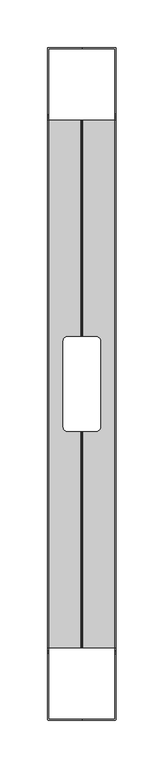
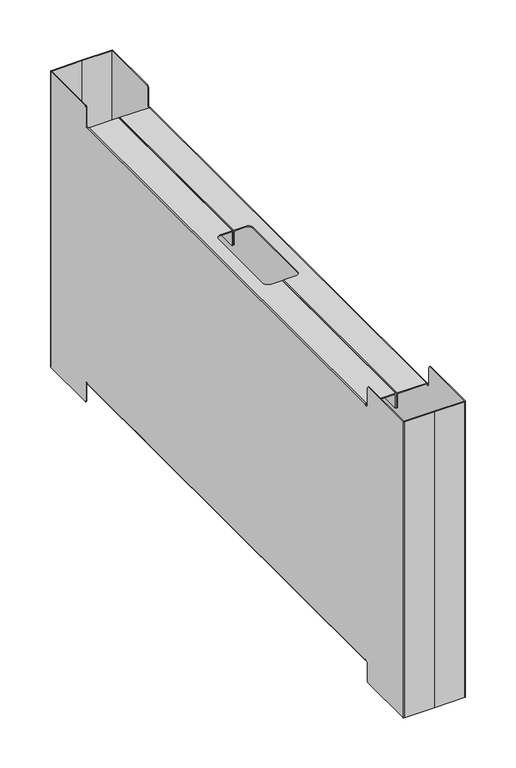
"""IFC4 building model written with IfcOpenShell, lengths in millimetres: furniture geometry, FREZZA_POP AD_Carter_for bench desk : Bracket_ZGBI - Embossed White."""

from ifc_helpers import new_model, si_unit, frame, origin, place, context, project, spatial, polyline, circle_curve, source, transform, mapped, element, save
from ifc_brep_helpers import plane_surface, cylinder_surface, revolved_surface, advanced_brep


def furniture_7ee9c148(model_context):
    return source(origin(), model_context, "Body", "AdvancedBrep", [
        advanced_brep(
        [(1751.0, 237.05, 335.5), (1752.05, 237.05, 336.55), (1785.9, 237.05, 336.55), (1786.95, 237.05, 335.5), (1786.95, 237.05, 318.55), (1785.95, 237.05, 318.55), (1785.95, 237.05, 335.55), (1752.0, 237.05, 335.55), (1752.0, 237.05, 335.0), (1751.0, 237.05, 335.0), (1752.0, 237.05, 24.45), (1785.95, 237.05, 24.45), (1785.95, 237.05, 41.45), (1786.95, 237.05, 41.45), (1786.95, 237.05, 24.5), (1785.9, 237.05, 23.45), (1752.05, 237.05, 23.45), (1751.0, 237.05, 24.5), (1751.0, 237.05, 25.0), (1752.0, 237.05, 25.0), (1752.0, -316.05, 335.55), (1785.95, -316.05, 335.55), (1785.95, -316.05, 318.55), (1786.95, -316.05, 318.55), (1786.95, -316.05, 335.5), (1785.9, -316.05, 336.55), (1752.05, -316.05, 336.55), (1751.0, -316.05, 335.5), (1751.0, -316.05, 335.0), (1752.0, -316.05, 335.0), (1751.0, -316.05, 24.5), (1752.05, -316.05, 23.45), (1785.9, -316.05, 23.45), (1786.95, -316.05, 24.5), (1786.95, -316.05, 41.45), (1785.95, -316.05, 41.45), (1785.95, -316.05, 24.45), (1752.0, -316.05, 24.45), (1752.0, -316.05, 25.0), (1751.0, -316.05, 25.0), (1785.9, -89.5, 336.55), (1772.0, -89.5, 336.55), (1767.0, -84.5, 336.55), (1767.0, 5.5, 336.55), (1772.0, 10.5, 336.55), (1785.9, 10.5, 336.55), (1786.95, 10.5, 335.5), (1786.95, -89.5, 335.5), (1786.95, 10.5, 318.55), (1786.95, -89.5, 318.55), (1785.95, 10.5, 318.55), (1785.95, -89.5, 318.55), (1785.95, 10.5, 335.55), (1785.95, -89.5, 335.55), (1772.0, 10.5, 335.55), (1767.0, 5.5, 335.55), (1767.0, -84.5, 335.55), (1772.0, -89.5, 335.55), (1752.0, -318.5, 335.0), (1752.0, -320.5, 337.0), (1752.0, -320.5, 358.0), (1752.0, -322.5, 360.0), (1752.0, -391.05, 360.0), (1752.0, -391.05, 0.0), (1752.0, -322.5, 0.0), (1752.0, -320.5, 2.0), (1752.0, -320.5, 23.0), (1752.0, -318.5, 25.0), (1752.0, 239.5, 25.0), (1752.0, 241.5, 23.0), (1752.0, 241.5, 2.0), (1752.0, 243.5, 0.0), (1752.0, 312.05, 0.0), (1752.0, 312.05, 360.0), (1752.0, 243.5, 360.0), (1752.0, 241.5, 358.0), (1752.0, 241.5, 337.0), (1752.0, 239.5, 335.0), (1751.0, 239.5, 335.0), (1751.0, 241.5, 337.0), (1751.0, 241.5, 358.0), (1751.0, 243.5, 360.0), (1751.0, 312.05, 360.0), (1751.0, 312.05, 0.0), (1751.0, 243.5, 0.0), (1751.0, 241.5, 2.0), (1751.0, 241.5, 23.0), (1751.0, 239.5, 25.0), (1751.0, -318.5, 25.0), (1751.0, -320.5, 23.0), (1751.0, -320.5, 2.0), (1751.0, -322.5, 0.0), (1751.0, -391.0, 0.0), (1751.0, -391.0, 360.0), (1751.0, -322.5, 360.0), (1751.0, -320.5, 358.0), (1751.0, -320.5, 337.0), (1751.0, -318.5, 335.0), (1785.95, -89.5, 24.45), (1772.0, -89.5, 24.45), (1767.0, -84.5, 24.45), (1767.0, 5.5, 24.45), (1772.0, 10.5, 24.45), (1785.95, 10.5, 24.45), (1785.95, 10.5, 41.45), (1785.95, -89.5, 41.45), (1786.95, 10.5, 41.45), (1786.95, -89.5, 41.45), (1786.95, 10.5, 24.5), (1786.95, -89.5, 24.5), (1785.9, 10.5, 23.45), (1785.9, -89.5, 23.45), (1772.0, 10.5, 23.45), (1767.0, 5.5, 23.45), (1767.0, -84.5, 23.45), (1772.0, -89.5, 23.45), (1787.0, 313.05, 360.0), (1752.0, 313.05, 360.0), (1787.0, 312.05, 360.0), (1752.05, -392.05, 360.0), (1787.0, -392.05, 360.0), (1787.0, -391.05, 360.0), (1787.0, 313.05, 0.0), (1787.0, 312.05, 0.0), (1752.05, 313.05, 0.0), (1787.0, -391.05, 0.0), (1787.0, -392.05, 0.0), (1752.05, -392.05, 0.0)],
        [
            (0, 1, circle_curve(frame((1752.05, 237.05, 335.5), z_axis=(0.0, 1.0, 0.0), x_axis=(1.0, 0.0, 0.0)), 1.05)),
            (1, 2),
            (2, 3, circle_curve(frame((1785.9, 237.05, 335.5), z_axis=(0.0, 1.0, 0.0), x_axis=(1.0, 0.0, 0.0)), 1.05)),
            (3, 4),
            (4, 5),
            (5, 6),
            (6, 7),
            (7, 8),
            (8, 9),
            (9, 0),
            (10, 11),
            (11, 12),
            (12, 13),
            (13, 14),
            (14, 15, circle_curve(frame((1785.9, 237.05, 24.5), z_axis=(0.0, 1.0, 0.0), x_axis=(1.0, 0.0, 0.0)), 1.05)),
            (15, 16),
            (16, 17, circle_curve(frame((1752.05, 237.05, 24.5), z_axis=(0.0, 1.0, 0.0), x_axis=(1.0, 0.0, 0.0)), 1.05)),
            (17, 18),
            (18, 19),
            (19, 10),
            (20, 21),
            (21, 22),
            (22, 23),
            (23, 24),
            (24, 25, circle_curve(frame((1785.9, -316.05, 335.5), z_axis=(0.0, -1.0, 0.0), x_axis=(1.0, 0.0, 0.0)), 1.05)),
            (25, 26),
            (26, 27, circle_curve(frame((1752.05, -316.05, 335.5), z_axis=(0.0, -1.0, 0.0), x_axis=(1.0, 0.0, 0.0)), 1.05)),
            (27, 28),
            (28, 29),
            (29, 20),
            (30, 31, circle_curve(frame((1752.05, -316.05, 24.5), z_axis=(0.0, -1.0, 0.0), x_axis=(1.0, 0.0, 0.0)), 1.05)),
            (31, 32),
            (32, 33, circle_curve(frame((1785.9, -316.05, 24.5), z_axis=(0.0, -1.0, 0.0), x_axis=(1.0, 0.0, 0.0)), 1.05)),
            (33, 34),
            (34, 35),
            (35, 36),
            (36, 37),
            (37, 38),
            (38, 39),
            (39, 30),
            (0, 27),
            (26, 1),
            (25, 40),
            (40, 41),
            (41, 42, circle_curve(frame((1772.0, -84.5, 336.55), z_axis=(0.0, 0.0, -1.0), x_axis=(1.0, 0.0, 0.0)), 5.0)),
            (42, 43),
            (43, 44, circle_curve(frame((1772.0, 5.5, 336.55), z_axis=(0.0, 0.0, -1.0), x_axis=(1.0, 0.0, 0.0)), 5.0)),
            (44, 45),
            (45, 2),
            (45, 46, circle_curve(frame((1785.9, 10.5, 335.5), z_axis=(0.0, 1.0, 0.0), x_axis=(1.0, 0.0, 0.0)), 1.05)),
            (46, 3),
            (24, 47),
            (47, 40, circle_curve(frame((1785.9, -89.5, 335.5), z_axis=(0.0, -1.0, 0.0), x_axis=(1.0, 0.0, 0.0)), 1.05)),
            (46, 48),
            (48, 4),
            (23, 49),
            (49, 47),
            (48, 50),
            (50, 5),
            (22, 51),
            (51, 49),
            (50, 52),
            (52, 6),
            (21, 53),
            (53, 51),
            (52, 54),
            (54, 55, circle_curve(frame((1772.0, 5.5, 335.55), z_axis=(0.0, 0.0, 1.0), x_axis=(1.0, 0.0, 0.0)), 5.0)),
            (55, 56),
            (56, 57, circle_curve(frame((1772.0, -84.5, 335.55), z_axis=(0.0, 0.0, 1.0), x_axis=(1.0, 0.0, 0.0)), 5.0)),
            (57, 53),
            (20, 7),
            (29, 58),
            (58, 59, circle_curve(frame((1752.0, -318.5, 337.0), z_axis=(-1.0, 0.0, 0.0), x_axis=(0.0, -1.0, 0.0)), 2.0)),
            (59, 60),
            (60, 61, circle_curve(frame((1752.0, -322.5, 358.0), z_axis=(1.0, 0.0, 0.0), x_axis=(0.0, -1.0, 0.0)), 2.0)),
            (61, 62),
            (62, 63),
            (63, 64),
            (64, 65, circle_curve(frame((1752.0, -322.5, 2.0), z_axis=(1.0, 0.0, 0.0), x_axis=(0.0, -1.0, 0.0)), 2.0)),
            (65, 66),
            (66, 67, circle_curve(frame((1752.0, -318.5, 23.0), z_axis=(-1.0, 0.0, 0.0), x_axis=(0.0, -1.0, 0.0)), 2.0)),
            (67, 38),
            (37, 10),
            (19, 68),
            (68, 69, circle_curve(frame((1752.0, 239.5, 23.0), z_axis=(-1.0, 0.0, 0.0), x_axis=(0.0, -1.0, 0.0)), 2.0)),
            (69, 70),
            (70, 71, circle_curve(frame((1752.0, 243.5, 2.0), z_axis=(1.0, 0.0, 0.0), x_axis=(0.0, -1.0, 0.0)), 2.0)),
            (71, 72),
            (72, 73),
            (73, 74),
            (74, 75, circle_curve(frame((1752.0, 243.5, 358.0), z_axis=(1.0, 0.0, 0.0), x_axis=(0.0, -1.0, 0.0)), 2.0)),
            (75, 76),
            (76, 77, circle_curve(frame((1752.0, 239.5, 337.0), z_axis=(-1.0, 0.0, 0.0), x_axis=(0.0, -1.0, 0.0)), 2.0)),
            (77, 8),
            (9, 78),
            (78, 79, circle_curve(frame((1751.0, 239.5, 337.0), z_axis=(1.0, 0.0, 0.0), x_axis=(0.0, -1.0, 0.0)), 2.0)),
            (79, 80),
            (80, 81, circle_curve(frame((1751.0, 243.5, 358.0), z_axis=(-1.0, 0.0, 0.0), x_axis=(0.0, -1.0, 0.0)), 2.0)),
            (81, 82),
            (82, 83),
            (83, 84),
            (84, 85, circle_curve(frame((1751.0, 243.5, 2.0), z_axis=(-1.0, 0.0, 0.0), x_axis=(0.0, -1.0, 0.0)), 2.0)),
            (85, 86),
            (86, 87, circle_curve(frame((1751.0, 239.5, 23.0), z_axis=(1.0, 0.0, 0.0), x_axis=(0.0, -1.0, 0.0)), 2.0)),
            (87, 18),
            (17, 30),
            (39, 88),
            (88, 89, circle_curve(frame((1751.0, -318.5, 23.0), z_axis=(1.0, 0.0, 0.0), x_axis=(0.0, -1.0, 0.0)), 2.0)),
            (89, 90),
            (90, 91, circle_curve(frame((1751.0, -322.5, 2.0), z_axis=(-1.0, 0.0, 0.0), x_axis=(0.0, -1.0, 0.0)), 2.0)),
            (91, 92),
            (92, 93),
            (93, 94),
            (94, 95, circle_curve(frame((1751.0, -322.5, 358.0), z_axis=(-1.0, 0.0, 0.0), x_axis=(0.0, -1.0, 0.0)), 2.0)),
            (95, 96),
            (96, 97, circle_curve(frame((1751.0, -318.5, 337.0), z_axis=(1.0, 0.0, 0.0), x_axis=(0.0, -1.0, 0.0)), 2.0)),
            (97, 28),
            (36, 98),
            (98, 99),
            (99, 100, circle_curve(frame((1772.0, -84.5, 24.45), z_axis=(0.0, 0.0, -1.0), x_axis=(1.0, 0.0, 0.0)), 5.0)),
            (100, 101),
            (101, 102, circle_curve(frame((1772.0, 5.5, 24.45), z_axis=(0.0, 0.0, -1.0), x_axis=(1.0, 0.0, 0.0)), 5.0)),
            (102, 103),
            (103, 11),
            (103, 104),
            (104, 12),
            (35, 105),
            (105, 98),
            (104, 106),
            (106, 13),
            (34, 107),
            (107, 105),
            (106, 108),
            (108, 14),
            (33, 109),
            (109, 107),
            (108, 110, circle_curve(frame((1785.9, 10.5, 24.5), z_axis=(0.0, 1.0, 0.0), x_axis=(1.0, 0.0, 0.0)), 1.05)),
            (110, 15),
            (32, 111),
            (111, 109, circle_curve(frame((1785.9, -89.5, 24.5), z_axis=(0.0, -1.0, 0.0), x_axis=(1.0, 0.0, 0.0)), 1.05)),
            (110, 112),
            (112, 113, circle_curve(frame((1772.0, 5.5, 23.45), z_axis=(0.0, 0.0, 1.0), x_axis=(1.0, 0.0, 0.0)), 5.0)),
            (113, 114),
            (114, 115, circle_curve(frame((1772.0, -84.5, 23.45), z_axis=(0.0, 0.0, 1.0), x_axis=(1.0, 0.0, 0.0)), 5.0)),
            (115, 111),
            (31, 16),
            (56, 42),
            (41, 57),
            (114, 100),
            (99, 115),
            (44, 54),
            (102, 112),
            (43, 55),
            (101, 113),
            (116, 117),
            (117, 82, circle_curve(frame((1752.05, 312.0, 360.0), z_axis=(0.0, 0.0, 1.0), x_axis=(1.0, 0.0, 0.0)), 1.05)),
            (81, 74),
            (73, 118),
            (118, 116),
            (93, 119, circle_curve(frame((1752.05, -391.0, 360.0), z_axis=(0.0, 0.0, 1.0), x_axis=(1.0, 0.0, 0.0)), 1.05)),
            (119, 120),
            (120, 121),
            (121, 62),
            (61, 94),
            (122, 123),
            (123, 72),
            (71, 84),
            (83, 124, circle_curve(frame((1752.05, 312.0, 0.0), z_axis=(0.0, 0.0, -1.0), x_axis=(1.0, 0.0, 0.0)), 1.05)),
            (124, 122),
            (63, 125),
            (125, 126),
            (126, 127),
            (127, 92, circle_curve(frame((1752.05, -391.0, 0.0), z_axis=(0.0, 0.0, -1.0), x_axis=(1.0, 0.0, 0.0)), 1.05)),
            (91, 64),
            (116, 122),
            (124, 117),
            (127, 119),
            (126, 120),
            (125, 121),
            (123, 118),
            (80, 75),
            (79, 76),
            (78, 77),
            (97, 58),
            (96, 59),
            (95, 60),
            (90, 65),
            (89, 66),
            (88, 67),
            (87, 68),
            (86, 69),
            (85, 70),
        ],
        [
            plane_surface(frame((1787.0, 237.05, 0.0), z_axis=(0.0, 1.0, 0.0), x_axis=(0.0, 0.0, 1.0))),
            plane_surface(frame((1787.0, -316.05, 0.0), z_axis=(0.0, -1.0, 0.0), x_axis=(0.0, 0.0, 1.0))),
            cylinder_surface(frame((1752.05, 237.05, 335.5), z_axis=(0.0, 1.0, 0.0), x_axis=(1.0, 0.0, 0.0)), 1.05),
            plane_surface(frame((1752.05, 237.05, 336.55), z_axis=(0.0, 0.0, 1.0), x_axis=(0.0, -1.0, 0.0))),
            cylinder_surface(frame((1785.9, 237.05, 335.5), z_axis=(0.0, 1.0, 0.0), x_axis=(1.0, 0.0, 0.0)), 1.05),
            plane_surface(frame((1786.95, 237.05, 335.5), z_axis=(1.0, 0.0, 0.0), x_axis=(0.0, -1.0, 0.0))),
            plane_surface(frame((1786.95, 237.05, 318.55), z_axis=(0.0, 0.0, -1.0), x_axis=(0.0, -1.0, 0.0))),
            plane_surface(frame((1785.95, 237.05, 318.55), z_axis=(-1.0, 0.0, 0.0), x_axis=(0.0, -1.0, 0.0))),
            plane_surface(frame((1785.95, 237.05, 335.55), z_axis=(0.0, 0.0, -1.0), x_axis=(0.0, -1.0, 0.0))),
            plane_surface(frame((1752.0, 237.05, 335.55), z_axis=(1.0, 0.0, 0.0), x_axis=(0.0, -1.0, 0.0))),
            plane_surface(frame((1751.0, 237.05, 334.55), z_axis=(-1.0, 0.0, 0.0), x_axis=(0.0, -1.0, 0.0))),
            plane_surface(frame((1752.0, 237.05, 24.45), z_axis=(0.0, 0.0, 1.0), x_axis=(0.0, -1.0, 0.0))),
            plane_surface(frame((1785.95, 237.05, 24.45), z_axis=(-1.0, 0.0, 0.0), x_axis=(0.0, -1.0, 0.0))),
            plane_surface(frame((1785.95, 237.05, 41.45), z_axis=(0.0, 0.0, 1.0), x_axis=(0.0, -1.0, 0.0))),
            plane_surface(frame((1786.95, 237.05, 41.45), z_axis=(1.0, 0.0, 0.0), x_axis=(0.0, -1.0, 0.0))),
            cylinder_surface(frame((1785.9, 237.05, 24.5), z_axis=(0.0, 1.0, 0.0), x_axis=(1.0, 0.0, 0.0)), 1.05),
            plane_surface(frame((1785.9, 237.05, 23.45), z_axis=(0.0, 0.0, -1.0), x_axis=(0.0, -1.0, 0.0))),
            cylinder_surface(frame((1752.05, 237.05, 24.5), z_axis=(0.0, 1.0, 0.0), x_axis=(1.0, 0.0, 0.0)), 1.05),
            revolved_surface(polyline([(1777.0, -84.5, 336.55), (1777.0, -84.5, 335.55)]), (1772.0, -84.5, 0.0), (0.0, 0.0, 1.0)),
            revolved_surface(polyline([(1777.0, -84.5, 24.45), (1777.0, -84.5, 23.45)]), (1772.0, -84.5, 0.0), (0.0, 0.0, 1.0)),
            plane_surface(frame((1772.0, -89.5, 360.0), z_axis=(0.0, 1.0, 0.0), x_axis=(0.0, 0.0, -1.0))),
            plane_surface(frame((1802.0, 10.5, 360.0), z_axis=(0.0, -1.0, 0.0), x_axis=(0.0, 0.0, -1.0))),
            revolved_surface(polyline([(1777.0, 5.5, 336.55), (1777.0, 5.5, 335.55)]), (1772.0, 5.5, 0.0), (0.0, 0.0, 1.0)),
            revolved_surface(polyline([(1777.0, 5.5, 24.45), (1777.0, 5.5, 23.45)]), (1772.0, 5.5, 0.0), (0.0, 0.0, 1.0)),
            plane_surface(frame((1767.0, 5.5, 360.0), z_axis=(1.0, 0.0, 0.0), x_axis=(0.0, 0.0, -1.0))),
            plane_surface(frame((1752.0, 313.05, 360.0), z_axis=(0.0, 0.0, 1.0), x_axis=(-1.0, 0.0, 0.0))),
            plane_surface(frame((1752.0, 313.05, 0.0), z_axis=(0.0, 0.0, -1.0), x_axis=(1.0, 0.0, 0.0))),
            plane_surface(frame((1787.0, 313.05, 360.0), z_axis=(0.0, 1.0, 0.0), x_axis=(0.0, 0.0, -1.0))),
            cylinder_surface(frame((1752.05, 312.0, 0.0), z_axis=(0.0, 0.0, 1.0), x_axis=(1.0, 0.0, 0.0)), 1.05),
            cylinder_surface(frame((1752.05, -391.0, 0.0), z_axis=(0.0, 0.0, 1.0), x_axis=(1.0, 0.0, 0.0)), 1.05),
            plane_surface(frame((1752.05, -392.05, 360.0), z_axis=(0.0, -1.0, 0.0), x_axis=(0.0, 0.0, -1.0))),
            plane_surface(frame((1787.0, -392.05, 360.0), z_axis=(1.0, 0.0, 0.0), x_axis=(0.0, 0.0, -1.0))),
            plane_surface(frame((1787.0, -391.05, 360.0), z_axis=(0.0, 1.0, 0.0), x_axis=(0.0, 0.0, -1.0))),
            plane_surface(frame((1752.0, 312.05, 360.0), z_axis=(0.0, -1.0, 0.0), x_axis=(0.0, 0.0, -1.0))),
            plane_surface(frame((1787.0, 312.05, 360.0), z_axis=(1.0, 0.0, 0.0), x_axis=(0.0, 0.0, -1.0))),
            cylinder_surface(frame((1827.0, 243.5, 358.0), z_axis=(1.0, 0.0, 0.0), x_axis=(0.0, -1.0, 0.0)), 2.0),
            plane_surface(frame((1747.0, 241.5, 358.0), z_axis=(0.0, -1.0, 0.0), x_axis=(1.0, 0.0, 0.0))),
            revolved_surface(polyline([(1751.0, 237.5, 337.0), (1752.0, 237.5, 337.0)]), (1827.0, 239.5, 337.0), (-1.0, 0.0, 0.0)),
            plane_surface(frame((1747.0, 239.5, 335.0), z_axis=(0.0, 0.0, 1.0), x_axis=(1.0, 0.0, 0.0))),
            revolved_surface(polyline([(1751.0, -320.5, 337.0), (1752.0, -320.5, 337.0)]), (1827.0, -318.5, 337.0), (-1.0, 0.0, 0.0)),
            plane_surface(frame((1747.0, -320.5, 337.0), z_axis=(0.0, 1.0, 0.0), x_axis=(1.0, 0.0, 0.0))),
            cylinder_surface(frame((1827.0, -322.5, 358.0), z_axis=(1.0, 0.0, 0.0), x_axis=(0.0, -1.0, 0.0)), 2.0),
            cylinder_surface(frame((1747.0, -322.5, 2.0), z_axis=(1.0, 0.0, 0.0), x_axis=(0.0, -1.0, 0.0)), 2.0),
            plane_surface(frame((1747.0, -320.5, 2.0), z_axis=(0.0, 1.0, 0.0), x_axis=(1.0, 0.0, 0.0))),
            revolved_surface(polyline([(1751.0, -320.5, 23.0), (1752.0, -320.5, 23.0)]), (1747.0, -318.5, 23.0), (-1.0, 0.0, 0.0)),
            plane_surface(frame((1747.0, -318.5, 25.0), z_axis=(0.0, 0.0, -1.0), x_axis=(1.0, 0.0, 0.0))),
            revolved_surface(polyline([(1751.0, 237.5, 23.0), (1752.0, 237.5, 23.0)]), (1747.0, 239.5, 23.0), (-1.0, 0.0, 0.0)),
            plane_surface(frame((1747.0, 241.5, 23.0), z_axis=(0.0, -1.0, 0.0), x_axis=(1.0, 0.0, 0.0))),
            cylinder_surface(frame((1747.0, 243.5, 2.0), z_axis=(1.0, 0.0, 0.0), x_axis=(0.0, -1.0, 0.0)), 2.0),
        ],
        [
            (0, [[1, 2, 3, 4, 5, 6, 7, 8, 9, 10]]),
            (0, [[11, 12, 13, 14, 15, 16, 17, 18, 19, 20]]),
            (1, [[21, 22, 23, 24, 25, 26, 27, 28, 29, 30]]),
            (1, [[31, 32, 33, 34, 35, 36, 37, 38, 39, 40]]),
            (2, [[-1, 41, -27, 42]]),
            (3, [[-2, -42, -26, 43, 44, 45, 46, 47, 48, 49]]),
            (4, [[-3, -49, 50, 51]]),
            (4, [[-25, 52, 53, -43]]),
            (5, [[-4, -51, 54, 55]]),
            (5, [[-24, 56, 57, -52]]),
            (6, [[-5, -55, 58, 59]]),
            (6, [[-23, 60, 61, -56]]),
            (7, [[-6, -59, 62, 63]]),
            (7, [[-22, 64, 65, -60]]),
            (8, [[-7, -63, 66, 67, 68, 69, 70, -64, -21, 71]]),
            (9, [[-71, -30, 72, 73, 74, 75, 76, 77, 78, 79, 80, 81, 82, -38, 83, -20, 84, 85, 86, 87, 88, 89, 90, 91, 92, 93, 94, -8]]),
            (10, [[-41, -10, 95, 96, 97, 98, 99, 100, 101, 102, 103, 104, 105, -18, 106, -40, 107, 108, 109, 110, 111, 112, 113, 114, 115, 116, 117, -28]]),
            (11, [[-11, -83, -37, 118, 119, 120, 121, 122, 123, 124]]),
            (12, [[-12, -124, 125, 126]]),
            (12, [[-36, 127, 128, -118]]),
            (13, [[-13, -126, 129, 130]]),
            (13, [[-35, 131, 132, -127]]),
            (14, [[-14, -130, 133, 134]]),
            (14, [[-34, 135, 136, -131]]),
            (15, [[-15, -134, 137, 138]]),
            (15, [[-33, 139, 140, -135]]),
            (16, [[-16, -138, 141, 142, 143, 144, 145, -139, -32, 146]]),
            (17, [[-17, -146, -31, -106]]),
            (18, [[147, -45, 148, -69]]),
            (19, [[149, -120, 150, -144]]),
            (20, [[-148, -44, -53, -57, -61, -65, -70]]),
            (20, [[-150, -119, -128, -132, -136, -140, -145]]),
            (21, [[151, -66, -62, -58, -54, -50, -48]]),
            (21, [[152, -141, -137, -133, -129, -125, -123]]),
            (22, [[-151, -47, 153, -67]]),
            (23, [[-152, -122, 154, -142]]),
            (24, [[-147, -68, -153, -46]]),
            (24, [[-149, -143, -154, -121]]),
            (25, [[155, 156, -99, 157, -90, 158, 159]]),
            (25, [[160, 161, 162, 163, -76, 164, -113]]),
            (26, [[165, 166, -88, 167, -101, 168, 169]]),
            (26, [[170, 171, 172, 173, -111, 174, -78]]),
            (27, [[-155, 175, -169, 176]]),
            (28, [[-156, -176, -168, -100]]),
            (29, [[-160, -112, -173, 177]]),
            (30, [[-161, -177, -172, 178]]),
            (31, [[-162, -178, -171, 179]]),
            (32, [[-163, -179, -170, -77]]),
            (33, [[-158, -89, -166, 180]]),
            (34, [[-159, -180, -165, -175]]),
            (35, [[181, -91, -157, -98]]),
            (36, [[-181, -97, 182, -92]]),
            (37, [[-182, -96, 183, -93]]),
            (38, [[-183, -95, -9, -94]]),
            (38, [[184, -72, -29, -117]]),
            (39, [[-184, -116, 185, -73]]),
            (40, [[-185, -115, 186, -74]]),
            (41, [[-186, -114, -164, -75]]),
            (42, [[187, -79, -174, -110]]),
            (43, [[-187, -109, 188, -80]]),
            (44, [[-188, -108, 189, -81]]),
            (45, [[-189, -107, -39, -82]]),
            (45, [[190, -84, -19, -105]]),
            (46, [[-190, -104, 191, -85]]),
            (47, [[-191, -103, 192, -86]]),
            (48, [[-192, -102, -167, -87]]),
        ],
    ),
        advanced_brep(
        [(1802.0, -89.5, 336.55), (1802.0, -89.5, 335.55), (1788.05, -89.5, 335.55), (1788.05, -89.5, 318.55), (1787.05, -89.5, 318.55), (1787.05, -89.5, 335.5), (1788.1, -89.5, 336.55), (1802.0, -89.5, 24.45), (1802.0, -89.5, 23.45), (1788.1, -89.5, 23.45), (1787.05, -89.5, 24.5), (1787.05, -89.5, 41.45), (1788.05, -89.5, 41.45), (1788.05, -89.5, 24.45), (1807.0, -84.5, 336.55), (1807.0, -84.5, 335.55), (1807.0, -84.5, 24.45), (1807.0, -84.5, 23.45), (1807.0, 5.5, 336.55), (1807.0, 5.5, 335.55), (1807.0, 5.5, 24.45), (1807.0, 5.5, 23.45), (1802.0, 10.5, 336.55), (1802.0, 10.5, 335.55), (1802.0, 10.5, 24.45), (1802.0, 10.5, 23.45), (1788.1, 10.5, 336.55), (1787.05, 10.5, 335.5), (1787.05, 10.5, 318.55), (1788.05, 10.5, 318.55), (1788.05, 10.5, 335.55), (1788.05, 10.5, 24.45), (1788.05, 10.5, 41.45), (1787.05, 10.5, 41.45), (1787.05, 10.5, 24.5), (1788.1, 10.5, 23.45), (1822.0, 237.05, 335.55), (1788.05, 237.05, 335.55), (1788.05, 237.05, 318.55), (1787.05, 237.05, 318.55), (1787.05, 237.05, 335.5), (1788.1, 237.05, 336.55), (1821.95, 237.05, 336.55), (1823.0, 237.05, 335.5), (1823.0, 237.05, 335.0), (1822.0, 237.05, 335.0), (1823.0, 237.05, 24.5), (1821.95, 237.05, 23.45), (1788.1, 237.05, 23.45), (1787.05, 237.05, 24.5), (1787.05, 237.05, 41.45), (1788.05, 237.05, 41.45), (1788.05, 237.05, 24.45), (1822.0, 237.05, 24.45), (1822.0, 237.05, 25.0), (1823.0, 237.05, 25.0), (1823.0, -316.05, 335.5), (1821.95, -316.05, 336.55), (1788.1, -316.05, 336.55), (1787.05, -316.05, 335.5), (1787.05, -316.05, 318.55), (1788.05, -316.05, 318.55), (1788.05, -316.05, 335.55), (1822.0, -316.05, 335.55), (1822.0, -316.05, 335.0), (1823.0, -316.05, 335.0), (1822.0, -316.05, 24.45), (1788.05, -316.05, 24.45), (1788.05, -316.05, 41.45), (1787.05, -316.05, 41.45), (1787.05, -316.05, 24.5), (1788.1, -316.05, 23.45), (1821.95, -316.05, 23.45), (1823.0, -316.05, 24.5), (1823.0, -316.05, 25.0), (1822.0, -316.05, 25.0), (1822.0, 239.5, 335.0), (1822.0, 241.5, 337.0), (1822.0, 241.5, 358.0), (1822.0, 243.5, 360.0), (1822.0, 312.05, 360.0), (1822.0, 312.05, 0.0), (1822.0, 243.5, 0.0), (1822.0, 241.5, 2.0), (1822.0, 241.5, 23.0), (1822.0, 239.5, 25.0), (1822.0, -318.5, 25.0), (1822.0, -320.5, 23.0), (1822.0, -320.5, 2.0), (1822.0, -322.5, 0.0), (1822.0, -391.05, 0.0), (1822.0, -391.05, 360.0), (1822.0, -322.5, 360.0), (1822.0, -320.5, 358.0), (1822.0, -320.5, 337.0), (1822.0, -318.5, 335.0), (1823.0, -318.5, 335.0), (1823.0, -320.5, 337.0), (1823.0, -320.5, 358.0), (1823.0, -322.5, 360.0), (1823.0, -391.0, 360.0), (1823.0, -391.0, 0.0), (1823.0, -322.5, 0.0), (1823.0, -320.5, 2.0), (1823.0, -320.5, 23.0), (1823.0, -318.5, 25.0), (1823.0, 239.5, 25.0), (1823.0, 241.5, 23.0), (1823.0, 241.5, 2.0), (1823.0, 243.5, 0.0), (1823.0, 312.05, 0.0), (1823.0, 312.0, 360.0), (1823.0, 243.5, 360.0), (1823.0, 241.5, 358.0), (1823.0, 241.5, 337.0), (1823.0, 239.5, 335.0), (1787.0, 313.05, 360.0), (1787.0, 312.05, 360.0), (1821.95, 313.05, 360.0), (1787.0, -391.05, 360.0), (1787.0, -392.05, 360.0), (1821.95, -392.05, 360.0), (1787.0, 313.05, 0.0), (1822.0, 313.05, 0.0), (1787.0, 312.05, 0.0), (1821.95, -392.05, 0.0), (1787.0, -392.05, 0.0), (1787.0, -391.05, 0.0)],
        [
            (0, 1),
            (1, 2),
            (2, 3),
            (3, 4),
            (4, 5),
            (5, 6, circle_curve(frame((1788.1, -89.5, 335.5), z_axis=(0.0, 1.0, 0.0), x_axis=(1.0, 0.0, 0.0)), 1.05)),
            (6, 0),
            (7, 8),
            (8, 9),
            (9, 10, circle_curve(frame((1788.1, -89.5, 24.5), z_axis=(0.0, 1.0, 0.0), x_axis=(1.0, 0.0, 0.0)), 1.05)),
            (10, 11),
            (11, 12),
            (12, 13),
            (13, 7),
            (0, 14, circle_curve(frame((1802.0, -84.5, 336.55), z_axis=(0.0, 0.0, 1.0), x_axis=(1.0, 0.0, 0.0)), 5.0)),
            (14, 15),
            (15, 1, circle_curve(frame((1802.0, -84.5, 335.55), z_axis=(0.0, 0.0, -1.0), x_axis=(1.0, 0.0, 0.0)), 5.0)),
            (7, 16, circle_curve(frame((1802.0, -84.5, 24.45), z_axis=(0.0, 0.0, 1.0), x_axis=(1.0, 0.0, 0.0)), 5.0)),
            (16, 17),
            (17, 8, circle_curve(frame((1802.0, -84.5, 23.45), z_axis=(0.0, 0.0, -1.0), x_axis=(1.0, 0.0, 0.0)), 5.0)),
            (14, 18),
            (18, 19),
            (19, 15),
            (16, 20),
            (20, 21),
            (21, 17),
            (18, 22, circle_curve(frame((1802.0, 5.5, 336.55), z_axis=(0.0, 0.0, 1.0), x_axis=(1.0, 0.0, 0.0)), 5.0)),
            (22, 23),
            (23, 19, circle_curve(frame((1802.0, 5.5, 335.55), z_axis=(0.0, 0.0, -1.0), x_axis=(1.0, 0.0, 0.0)), 5.0)),
            (20, 24, circle_curve(frame((1802.0, 5.5, 24.45), z_axis=(0.0, 0.0, 1.0), x_axis=(1.0, 0.0, 0.0)), 5.0)),
            (24, 25),
            (25, 21, circle_curve(frame((1802.0, 5.5, 23.45), z_axis=(0.0, 0.0, -1.0), x_axis=(1.0, 0.0, 0.0)), 5.0)),
            (22, 26),
            (26, 27, circle_curve(frame((1788.1, 10.5, 335.5), z_axis=(0.0, -1.0, 0.0), x_axis=(1.0, 0.0, 0.0)), 1.05)),
            (27, 28),
            (28, 29),
            (29, 30),
            (30, 23),
            (24, 31),
            (31, 32),
            (32, 33),
            (33, 34),
            (34, 35, circle_curve(frame((1788.1, 10.5, 24.5), z_axis=(0.0, -1.0, 0.0), x_axis=(1.0, 0.0, 0.0)), 1.05)),
            (35, 25),
            (36, 37),
            (37, 38),
            (38, 39),
            (39, 40),
            (40, 41, circle_curve(frame((1788.1, 237.05, 335.5), z_axis=(0.0, 1.0, 0.0), x_axis=(1.0, 0.0, 0.0)), 1.05)),
            (41, 42),
            (42, 43, circle_curve(frame((1821.95, 237.05, 335.5), z_axis=(0.0, 1.0, 0.0), x_axis=(1.0, 0.0, 0.0)), 1.05)),
            (43, 44),
            (44, 45),
            (45, 36),
            (46, 47, circle_curve(frame((1821.95, 237.05, 24.5), z_axis=(0.0, 1.0, 0.0), x_axis=(1.0, 0.0, 0.0)), 1.05)),
            (47, 48),
            (48, 49, circle_curve(frame((1788.1, 237.05, 24.5), z_axis=(0.0, 1.0, 0.0), x_axis=(1.0, 0.0, 0.0)), 1.05)),
            (49, 50),
            (50, 51),
            (51, 52),
            (52, 53),
            (53, 54),
            (54, 55),
            (55, 46),
            (56, 57, circle_curve(frame((1821.95, -316.05, 335.5), z_axis=(0.0, -1.0, 0.0), x_axis=(1.0, 0.0, 0.0)), 1.05)),
            (57, 58),
            (58, 59, circle_curve(frame((1788.1, -316.05, 335.5), z_axis=(0.0, -1.0, 0.0), x_axis=(1.0, 0.0, 0.0)), 1.05)),
            (59, 60),
            (60, 61),
            (61, 62),
            (62, 63),
            (63, 64),
            (64, 65),
            (65, 56),
            (66, 67),
            (67, 68),
            (68, 69),
            (69, 70),
            (70, 71, circle_curve(frame((1788.1, -316.05, 24.5), z_axis=(0.0, -1.0, 0.0), x_axis=(1.0, 0.0, 0.0)), 1.05)),
            (71, 72),
            (72, 73, circle_curve(frame((1821.95, -316.05, 24.5), z_axis=(0.0, -1.0, 0.0), x_axis=(1.0, 0.0, 0.0)), 1.05)),
            (73, 74),
            (74, 75),
            (75, 66),
            (42, 57),
            (56, 43),
            (41, 26),
            (6, 58),
            (40, 27),
            (5, 59),
            (39, 28),
            (4, 60),
            (38, 29),
            (3, 61),
            (37, 30),
            (2, 62),
            (36, 63),
            (45, 76),
            (76, 77, circle_curve(frame((1822.0, 239.5, 337.0), z_axis=(1.0, 0.0, 0.0), x_axis=(0.0, -1.0, 0.0)), 2.0)),
            (77, 78),
            (78, 79, circle_curve(frame((1822.0, 243.5, 358.0), z_axis=(-1.0, 0.0, 0.0), x_axis=(0.0, -1.0, 0.0)), 2.0)),
            (79, 80),
            (80, 81),
            (81, 82),
            (82, 83, circle_curve(frame((1822.0, 243.5, 2.0), z_axis=(-1.0, 0.0, 0.0), x_axis=(0.0, -1.0, 0.0)), 2.0)),
            (83, 84),
            (84, 85, circle_curve(frame((1822.0, 239.5, 23.0), z_axis=(1.0, 0.0, 0.0), x_axis=(0.0, -1.0, 0.0)), 2.0)),
            (85, 54),
            (53, 66),
            (75, 86),
            (86, 87, circle_curve(frame((1822.0, -318.5, 23.0), z_axis=(1.0, 0.0, 0.0), x_axis=(0.0, -1.0, 0.0)), 2.0)),
            (87, 88),
            (88, 89, circle_curve(frame((1822.0, -322.5, 2.0), z_axis=(-1.0, 0.0, 0.0), x_axis=(0.0, -1.0, 0.0)), 2.0)),
            (89, 90),
            (90, 91),
            (91, 92),
            (92, 93, circle_curve(frame((1822.0, -322.5, 358.0), z_axis=(-1.0, 0.0, 0.0), x_axis=(0.0, -1.0, 0.0)), 2.0)),
            (93, 94),
            (94, 95, circle_curve(frame((1822.0, -318.5, 337.0), z_axis=(1.0, 0.0, 0.0), x_axis=(0.0, -1.0, 0.0)), 2.0)),
            (95, 64),
            (65, 96),
            (96, 97, circle_curve(frame((1823.0, -318.5, 337.0), z_axis=(-1.0, 0.0, 0.0), x_axis=(0.0, -1.0, 0.0)), 2.0)),
            (97, 98),
            (98, 99, circle_curve(frame((1823.0, -322.5, 358.0), z_axis=(1.0, 0.0, 0.0), x_axis=(0.0, -1.0, 0.0)), 2.0)),
            (99, 100),
            (100, 101),
            (101, 102),
            (102, 103, circle_curve(frame((1823.0, -322.5, 2.0), z_axis=(1.0, 0.0, 0.0), x_axis=(0.0, -1.0, 0.0)), 2.0)),
            (103, 104),
            (104, 105, circle_curve(frame((1823.0, -318.5, 23.0), z_axis=(-1.0, 0.0, 0.0), x_axis=(0.0, -1.0, 0.0)), 2.0)),
            (105, 74),
            (73, 46),
            (55, 106),
            (106, 107, circle_curve(frame((1823.0, 239.5, 23.0), z_axis=(-1.0, 0.0, 0.0), x_axis=(0.0, -1.0, 0.0)), 2.0)),
            (107, 108),
            (108, 109, circle_curve(frame((1823.0, 243.5, 2.0), z_axis=(1.0, 0.0, 0.0), x_axis=(0.0, -1.0, 0.0)), 2.0)),
            (109, 110),
            (110, 111),
            (111, 112),
            (112, 113, circle_curve(frame((1823.0, 243.5, 358.0), z_axis=(1.0, 0.0, 0.0), x_axis=(0.0, -1.0, 0.0)), 2.0)),
            (113, 114),
            (114, 115, circle_curve(frame((1823.0, 239.5, 337.0), z_axis=(-1.0, 0.0, 0.0), x_axis=(0.0, -1.0, 0.0)), 2.0)),
            (115, 44),
            (52, 31),
            (13, 67),
            (51, 32),
            (12, 68),
            (50, 33),
            (11, 69),
            (49, 34),
            (10, 70),
            (48, 35),
            (9, 71),
            (47, 72),
            (78, 113),
            (112, 79),
            (77, 114),
            (76, 115),
            (95, 96),
            (94, 97),
            (93, 98),
            (92, 99),
            (88, 103),
            (102, 89),
            (87, 104),
            (86, 105),
            (85, 106),
            (84, 107),
            (83, 108),
            (82, 109),
            (116, 117),
            (117, 80),
            (111, 118, circle_curve(frame((1821.95, 312.0, 360.0), z_axis=(0.0, 0.0, 1.0), x_axis=(-1.0, 0.0, 0.0)), 1.05)),
            (118, 116),
            (91, 119),
            (119, 120),
            (120, 121),
            (121, 100, circle_curve(frame((1821.95, -391.0, 360.0), z_axis=(0.0, 0.0, 1.0), x_axis=(-1.0, 0.0, 0.0)), 1.05)),
            (122, 123),
            (123, 110, circle_curve(frame((1821.95, 312.0, 0.0), z_axis=(0.0, 0.0, -1.0), x_axis=(-1.0, 0.0, 0.0)), 1.05)),
            (81, 124),
            (124, 122),
            (101, 125, circle_curve(frame((1821.95, -391.0, 0.0), z_axis=(0.0, 0.0, -1.0), x_axis=(-1.0, 0.0, 0.0)), 1.05)),
            (125, 126),
            (126, 127),
            (127, 90),
            (118, 123),
            (122, 116),
            (121, 125),
            (120, 126),
            (119, 127),
            (117, 124),
        ],
        [
            plane_surface(frame((1772.0, -89.5, 360.0), z_axis=(0.0, 1.0, 0.0), x_axis=(0.0, 0.0, -1.0))),
            revolved_surface(polyline([(1807.0, -84.5, 336.55), (1807.0, -84.5, 335.55)]), (1802.0, -84.5, 0.0), (0.0, 0.0, 1.0)),
            revolved_surface(polyline([(1807.0, -84.5, 24.45), (1807.0, -84.5, 23.45)]), (1802.0, -84.5, 0.0), (0.0, 0.0, 1.0)),
            plane_surface(frame((1807.0, -84.5, 360.0), z_axis=(-1.0, 0.0, 0.0), x_axis=(0.0, 0.0, -1.0))),
            revolved_surface(polyline([(1807.0, 5.5, 336.55), (1807.0, 5.5, 335.55)]), (1802.0, 5.5, 0.0), (0.0, 0.0, 1.0)),
            revolved_surface(polyline([(1807.0, 5.5, 24.45), (1807.0, 5.5, 23.45)]), (1802.0, 5.5, 0.0), (0.0, 0.0, 1.0)),
            plane_surface(frame((1802.0, 10.5, 360.0), z_axis=(0.0, -1.0, 0.0), x_axis=(0.0, 0.0, -1.0))),
            plane_surface(frame((1787.0, 237.05, 0.0), z_axis=(0.0, 1.0, 0.0), x_axis=(0.0, 0.0, 1.0))),
            plane_surface(frame((1787.0, -316.05, 0.0), z_axis=(0.0, -1.0, 0.0), x_axis=(0.0, 0.0, 1.0))),
            cylinder_surface(frame((1821.95, 237.05, 335.5), z_axis=(0.0, 1.0, 0.0), x_axis=(1.0, 0.0, 0.0)), 1.05),
            plane_surface(frame((1788.1, 237.05, 336.55), z_axis=(0.0, 0.0, 1.0), x_axis=(0.0, -1.0, 0.0))),
            cylinder_surface(frame((1788.1, 237.05, 335.5), z_axis=(0.0, 1.0, 0.0), x_axis=(1.0, 0.0, 0.0)), 1.05),
            plane_surface(frame((1787.05, 237.05, 318.55), z_axis=(-1.0, 0.0, 0.0), x_axis=(0.0, -1.0, 0.0))),
            plane_surface(frame((1788.05, 237.05, 318.55), z_axis=(0.0, 0.0, -1.0), x_axis=(0.0, -1.0, 0.0))),
            plane_surface(frame((1788.05, 237.05, 335.55), z_axis=(1.0, 0.0, 0.0), x_axis=(0.0, -1.0, 0.0))),
            plane_surface(frame((1822.0, 237.05, 335.55), z_axis=(0.0, 0.0, -1.0), x_axis=(0.0, -1.0, 0.0))),
            plane_surface(frame((1822.0, 237.05, 334.55), z_axis=(-1.0, 0.0, 0.0), x_axis=(0.0, -1.0, 0.0))),
            plane_surface(frame((1823.0, 237.05, 335.5), z_axis=(1.0, 0.0, 0.0), x_axis=(0.0, -1.0, 0.0))),
            plane_surface(frame((1788.05, 237.05, 24.45), z_axis=(0.0, 0.0, 1.0), x_axis=(0.0, -1.0, 0.0))),
            plane_surface(frame((1788.05, 237.05, 41.45), z_axis=(1.0, 0.0, 0.0), x_axis=(0.0, -1.0, 0.0))),
            plane_surface(frame((1787.05, 237.05, 41.45), z_axis=(0.0, 0.0, 1.0), x_axis=(0.0, -1.0, 0.0))),
            plane_surface(frame((1787.05, 237.05, 24.5), z_axis=(-1.0, 0.0, 0.0), x_axis=(0.0, -1.0, 0.0))),
            cylinder_surface(frame((1788.1, 237.05, 24.5), z_axis=(0.0, 1.0, 0.0), x_axis=(1.0, 0.0, 0.0)), 1.05),
            plane_surface(frame((1821.95, 237.05, 23.45), z_axis=(0.0, 0.0, -1.0), x_axis=(0.0, -1.0, 0.0))),
            cylinder_surface(frame((1821.95, 237.05, 24.5), z_axis=(0.0, 1.0, 0.0), x_axis=(1.0, 0.0, 0.0)), 1.05),
            cylinder_surface(frame((1827.0, 243.5, 358.0), z_axis=(1.0, 0.0, 0.0), x_axis=(0.0, -1.0, 0.0)), 2.0),
            plane_surface(frame((1747.0, 241.5, 358.0), z_axis=(0.0, -1.0, 0.0), x_axis=(1.0, 0.0, 0.0))),
            revolved_surface(polyline([(1822.0, 237.5, 337.0), (1823.0, 237.5, 337.0)]), (1827.0, 239.5, 337.0), (-1.0, 0.0, 0.0)),
            plane_surface(frame((1747.0, 239.5, 335.0), z_axis=(0.0, 0.0, 1.0), x_axis=(1.0, 0.0, 0.0))),
            revolved_surface(polyline([(1822.0, -320.5, 337.0), (1823.0, -320.5, 337.0)]), (1827.0, -318.5, 337.0), (-1.0, 0.0, 0.0)),
            plane_surface(frame((1747.0, -320.5, 337.0), z_axis=(0.0, 1.0, 0.0), x_axis=(1.0, 0.0, 0.0))),
            cylinder_surface(frame((1827.0, -322.5, 358.0), z_axis=(1.0, 0.0, 0.0), x_axis=(0.0, -1.0, 0.0)), 2.0),
            cylinder_surface(frame((1747.0, -322.5, 2.0), z_axis=(1.0, 0.0, 0.0), x_axis=(0.0, -1.0, 0.0)), 2.0),
            plane_surface(frame((1747.0, -320.5, 2.0), z_axis=(0.0, 1.0, 0.0), x_axis=(1.0, 0.0, 0.0))),
            revolved_surface(polyline([(1822.0, -320.5, 23.0), (1823.0, -320.5, 23.0)]), (1747.0, -318.5, 23.0), (-1.0, 0.0, 0.0)),
            plane_surface(frame((1747.0, -318.5, 25.0), z_axis=(0.0, 0.0, -1.0), x_axis=(1.0, 0.0, 0.0))),
            revolved_surface(polyline([(1822.0, 237.5, 23.0), (1823.0, 237.5, 23.0)]), (1747.0, 239.5, 23.0), (-1.0, 0.0, 0.0)),
            plane_surface(frame((1747.0, 241.5, 23.0), z_axis=(0.0, -1.0, 0.0), x_axis=(1.0, 0.0, 0.0))),
            cylinder_surface(frame((1747.0, 243.5, 2.0), z_axis=(1.0, 0.0, 0.0), x_axis=(0.0, -1.0, 0.0)), 2.0),
            plane_surface(frame((1787.0, 313.05, 360.0), z_axis=(0.0, 0.0, 1.0), x_axis=(0.0, -1.0, 0.0))),
            plane_surface(frame((1787.0, 313.05, 0.0), z_axis=(0.0, 0.0, -1.0), x_axis=(0.0, 1.0, 0.0))),
            plane_surface(frame((1822.0, 313.05, 360.0), z_axis=(0.0, 1.0, 0.0), x_axis=(0.0, 0.0, -1.0))),
            cylinder_surface(frame((1821.95, 312.0, 0.0), z_axis=(0.0, 0.0, 1.0), x_axis=(-1.0, 0.0, 0.0)), 1.05),
            cylinder_surface(frame((1821.95, -391.0, 0.0), z_axis=(0.0, 0.0, 1.0), x_axis=(-1.0, 0.0, 0.0)), 1.05),
            plane_surface(frame((1787.0, -392.05, 360.0), z_axis=(0.0, -1.0, 0.0), x_axis=(0.0, 0.0, -1.0))),
            plane_surface(frame((1787.0, -391.05, 360.0), z_axis=(-1.0, 0.0, 0.0), x_axis=(0.0, 0.0, -1.0))),
            plane_surface(frame((1822.0, -391.05, 360.0), z_axis=(0.0, 1.0, 0.0), x_axis=(0.0, 0.0, -1.0))),
            plane_surface(frame((1787.0, 312.05, 360.0), z_axis=(0.0, -1.0, 0.0), x_axis=(0.0, 0.0, -1.0))),
            plane_surface(frame((1787.0, 313.05, 360.0), z_axis=(-1.0, 0.0, 0.0), x_axis=(0.0, 0.0, -1.0))),
        ],
        [
            (0, [[1, 2, 3, 4, 5, 6, 7]]),
            (0, [[8, 9, 10, 11, 12, 13, 14]]),
            (1, [[-1, 15, 16, 17]]),
            (2, [[-8, 18, 19, 20]]),
            (3, [[-16, 21, 22, 23]]),
            (3, [[-19, 24, 25, 26]]),
            (4, [[-22, 27, 28, 29]]),
            (5, [[-25, 30, 31, 32]]),
            (6, [[-28, 33, 34, 35, 36, 37, 38]]),
            (6, [[-31, 39, 40, 41, 42, 43, 44]]),
            (7, [[45, 46, 47, 48, 49, 50, 51, 52, 53, 54]]),
            (7, [[55, 56, 57, 58, 59, 60, 61, 62, 63, 64]]),
            (8, [[65, 66, 67, 68, 69, 70, 71, 72, 73, 74]]),
            (8, [[75, 76, 77, 78, 79, 80, 81, 82, 83, 84]]),
            (9, [[-51, 85, -65, 86]]),
            (10, [[-50, 87, -33, -27, -21, -15, -7, 88, -66, -85]]),
            (11, [[-49, 89, -34, -87]]),
            (11, [[-67, -88, -6, 90]]),
            (12, [[-48, 91, -35, -89]]),
            (12, [[-68, -90, -5, 92]]),
            (13, [[-47, 93, -36, -91]]),
            (13, [[-69, -92, -4, 94]]),
            (14, [[-46, 95, -37, -93]]),
            (14, [[-70, -94, -3, 96]]),
            (15, [[-45, 97, -71, -96, -2, -17, -23, -29, -38, -95]]),
            (16, [[-97, -54, 98, 99, 100, 101, 102, 103, 104, 105, 106, 107, 108, -62, 109, -84, 110, 111, 112, 113, 114, 115, 116, 117, 118, 119, 120, -72]]),
            (17, [[-86, -74, 121, 122, 123, 124, 125, 126, 127, 128, 129, 130, 131, -82, 132, -64, 133, 134, 135, 136, 137, 138, 139, 140, 141, 142, 143, -52]]),
            (18, [[-61, 144, -39, -30, -24, -18, -14, 145, -75, -109]]),
            (19, [[-60, 146, -40, -144]]),
            (19, [[-76, -145, -13, 147]]),
            (20, [[-59, 148, -41, -146]]),
            (20, [[-77, -147, -12, 149]]),
            (21, [[-58, 150, -42, -148]]),
            (21, [[-78, -149, -11, 151]]),
            (22, [[-57, 152, -43, -150]]),
            (22, [[-79, -151, -10, 153]]),
            (23, [[-56, 154, -80, -153, -9, -20, -26, -32, -44, -152]]),
            (24, [[-55, -132, -81, -154]]),
            (25, [[155, -140, 156, -101]]),
            (26, [[-155, -100, 157, -141]]),
            (27, [[-157, -99, 158, -142]]),
            (28, [[-158, -98, -53, -143]]),
            (28, [[159, -121, -73, -120]]),
            (29, [[-159, -119, 160, -122]]),
            (30, [[-160, -118, 161, -123]]),
            (31, [[-161, -117, 162, -124]]),
            (32, [[163, -128, 164, -113]]),
            (33, [[-163, -112, 165, -129]]),
            (34, [[-165, -111, 166, -130]]),
            (35, [[-166, -110, -83, -131]]),
            (35, [[167, -133, -63, -108]]),
            (36, [[-167, -107, 168, -134]]),
            (37, [[-168, -106, 169, -135]]),
            (38, [[-169, -105, 170, -136]]),
            (39, [[171, 172, -102, -156, -139, 173, 174]]),
            (39, [[175, 176, 177, 178, -125, -162, -116]]),
            (40, [[179, 180, -137, -170, -104, 181, 182]]),
            (40, [[183, 184, 185, 186, -114, -164, -127]]),
            (41, [[-174, 187, -179, 188]]),
            (42, [[-173, -138, -180, -187]]),
            (43, [[-178, 189, -183, -126]]),
            (44, [[-177, 190, -184, -189]]),
            (45, [[-176, 191, -185, -190]]),
            (46, [[-175, -115, -186, -191]]),
            (47, [[-172, 192, -181, -103]]),
            (48, [[-171, -188, -182, -192]]),
        ],
    ),
    ])


if __name__ == "__main__":
    model = new_model("IFC4")
    model_context = context("Model", 3, world=origin())
    ifc_project = project(units=[si_unit("LENGTHUNIT", "METRE", prefix="MILLI")], contexts=[model_context])
    site = spatial("IfcSite", under=ifc_project)
    building = spatial("IfcBuilding", under=site)
    placement = place(None, origin())
    furniture_shape = furniture_7ee9c148(model_context)
    element("IfcFurniture", 1, ObjectType="FREZZA_POP AD_Carter_for bench desk : Bracket_ZGBI - Embossed White", at=placement, inside=building, context=model_context, shape_type="MappedRepresentation", body=[
        mapped(furniture_shape, transform((0.0, 0.0, 0.0), x_axis=(1.0, 0.0, 0.0), y_axis=(0.0, 1.0, 0.0), z_axis=(0.0, 0.0, 1.0))),
    ])
    save(model, "model.ifc")
